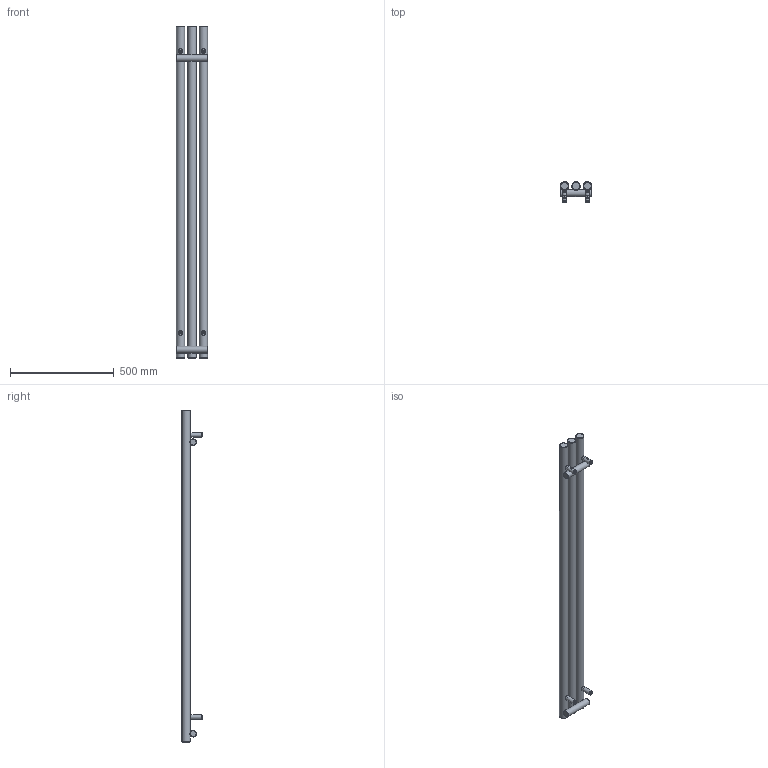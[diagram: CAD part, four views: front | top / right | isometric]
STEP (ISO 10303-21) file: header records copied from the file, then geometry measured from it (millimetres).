
FILE_DESCRIPTION(/* description */ (''),/* implementation_level */ '2;1');
FILE_NAME(/* name */ 'Z:\R\G\P\RGP116 - Grzejniki Geyser\Work\Inventor\Circolo (Rolo V, Rolo H)\ROLO-ROOM\Marketing\Bryły 3D\Zaokrąglone\WLROR160015-ES-CK-(Z).stp',/* time_stamp */ '2024-03-29T15:54:57+01:00',/* author */ ('NowAd'),/* organization */ (''),/* preprocessor_version */ 'ST-DEVELOPER v17.2',/* originating_system */ 'Autodesk Inventor 2019',/* authorisation */ '');
FILE_SCHEMA (('AUTOMOTIVE_DESIGN { 1 0 10303 214 3 1 1 }'));
Length unit declared in the file: millimetre
Products named in the file (3): WLROR160015-ES-CK-(Z); PGROR160015-ES-CK-(K); CK-V-fi40 marketing
Assembly tree (5 placements, depth 2):
  WLROR160015-ES-CK-(Z)
    PGROR160015-ES-CK-(K)
    CK-V-fi40 marketing  x4
Bounding box: 150 x 96.5 x 1600 mm (x, y, z)
Volume: 6315606.5 mm3; surface area: 672792.8 mm2
Topology: 5 solids, 5 shells, 303 faces, 769 edges, 514 vertices
Faces by surface type: plane 128, cylinder 71, cone 60, torus 38, bspline 6
Full cylindrical faces by diameter (mm): 4.134 x4, 4.48 x4, 6.4 x4, 10 x4, 12 x4, 15.834 x4, 16 x4, 18.631 x2, 22 x4, 32 x2, 40 x3
Entity records: 5288 total; most frequent: CARTESIAN_POINT 2358, DIRECTION 614, ORIENTED_EDGE 576, EDGE_CURVE 288, AXIS2_PLACEMENT_3D 271, VERTEX_POINT 196, EDGE_LOOP 150, CIRCLE 141
